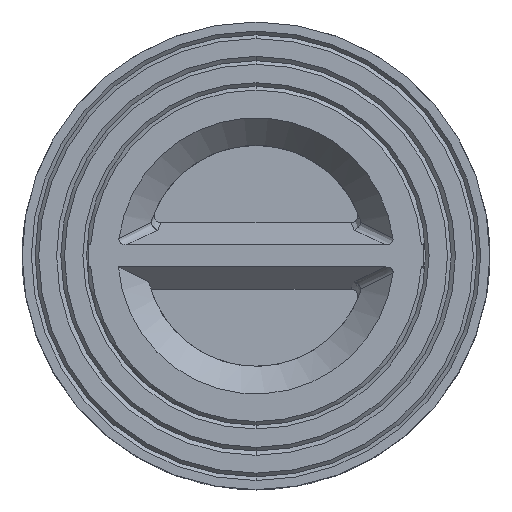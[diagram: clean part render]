
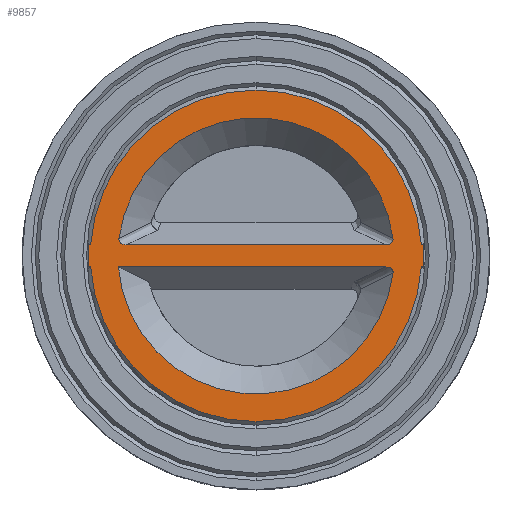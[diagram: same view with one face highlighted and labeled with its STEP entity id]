
A CAD part, top view. The second image highlights one B-rep face of the part: STEP entity #9857.
In plain terms, the highlighted planar face has unit normal (0, 0, 1).
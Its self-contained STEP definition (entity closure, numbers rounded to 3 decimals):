
#52=CARTESIAN_POINT('',(0.,0.,0.));
#53=DIRECTION('',(0.,0.,1.));
#54=DIRECTION('',(-0.998,-0.067,0.));
#55=AXIS2_PLACEMENT_3D('',#52,#53,#54);
#57=DIRECTION('',(0.,1.,0.));
#58=VECTOR('',#57,6.);
#59=CARTESIAN_POINT('',(-45.5,-3.,0.));
#60=LINE('',#59,#58);
#61=DIRECTION('',(1.,0.,0.));
#62=VECTOR('',#61,0.6);
#63=CARTESIAN_POINT('',(-45.5,3.,0.));
#64=LINE('',#63,#62);
#65=CARTESIAN_POINT('',(0.,0.,0.));
#66=DIRECTION('',(0.,0.,1.));
#67=DIRECTION('',(0.,1.,0.));
#68=AXIS2_PLACEMENT_3D('',#65,#66,#67);
#70=CARTESIAN_POINT('',(0.,0.,0.));
#71=DIRECTION('',(0.,0.,1.));
#72=DIRECTION('',(0.998,0.067,0.));
#73=AXIS2_PLACEMENT_3D('',#70,#71,#72);
#75=DIRECTION('',(1.,0.,0.));
#76=VECTOR('',#75,0.6);
#77=CARTESIAN_POINT('',(44.9,3.,0.));
#78=LINE('',#77,#76);
#79=DIRECTION('',(0.,-1.,0.));
#80=VECTOR('',#79,6.);
#81=CARTESIAN_POINT('',(45.5,3.,0.));
#82=LINE('',#81,#80);
#83=CARTESIAN_POINT('',(0.,0.,0.));
#84=DIRECTION('',(0.,0.,1.));
#85=DIRECTION('',(0.,-1.,0.));
#86=AXIS2_PLACEMENT_3D('',#83,#84,#85);
#88=CARTESIAN_POINT('',(0.,0.,0.));
#89=DIRECTION('',(0.,0.,-1.));
#90=DIRECTION('',(0.992,-0.126,0.));
#91=AXIS2_PLACEMENT_3D('',#88,#89,#90);
#93=DIRECTION('',(1.,0.,0.));
#94=VECTOR('',#93,70.547);
#95=CARTESIAN_POINT('',(-35.273,3.,0.));
#96=LINE('',#95,#94);
#97=CARTESIAN_POINT('',(0.,0.,0.));
#98=DIRECTION('',(0.,0.,-1.));
#99=DIRECTION('',(-0.992,0.126,0.));
#100=AXIS2_PLACEMENT_3D('',#97,#98,#99);
#7457=DIRECTION('',(1.,0.,0.));
#7458=VECTOR('',#7457,0.6);
#7459=CARTESIAN_POINT('',(44.9,-3.,0.));
#7460=LINE('',#7459,#7458);
#7461=DIRECTION('',(1.,0.,0.));
#7462=VECTOR('',#7461,0.6);
#7463=CARTESIAN_POINT('',(-45.5,-3.,0.));
#7464=LINE('',#7463,#7462);
#7472=CARTESIAN_POINT('',(35.273,-3.,0.));
#7481=DIRECTION('',(1.,0.,0.));
#7482=VECTOR('',#7481,72.653);
#7483=CARTESIAN_POINT('',(-37.38,-3.,0.));
#7484=LINE('',#7483,#7482);
#7519=CARTESIAN_POINT('',(35.273,3.,0.));
#7537=CARTESIAN_POINT('',(-35.273,3.,0.));
#7671=CARTESIAN_POINT('',(-35.273,3.,0.));
#7672=CARTESIAN_POINT('',(-35.471,3.,
0.));
#7673=CARTESIAN_POINT('',(-35.843,3.035,
0.));
#7674=CARTESIAN_POINT('',(-36.339,3.191,
0.));
#7675=CARTESIAN_POINT('',(-36.74,3.443,
0.));
#7676=CARTESIAN_POINT('',(-37.036,3.779,
0.));
#7677=CARTESIAN_POINT('',(-37.214,4.237,
0.));
#7678=CARTESIAN_POINT('',(-37.222,4.563,
0.));
#7679=CARTESIAN_POINT('',(-37.2,4.736,
0.));
#7702=CARTESIAN_POINT('',(37.2,4.736,
0.));
#7703=CARTESIAN_POINT('',(37.222,4.563,
0.));
#7704=CARTESIAN_POINT('',(37.214,4.237,0.));
#7705=CARTESIAN_POINT('',(37.036,3.779,
0.));
#7706=CARTESIAN_POINT('',(36.74,3.443,0.));
#7707=CARTESIAN_POINT('',(36.339,3.191,
0.));
#7708=CARTESIAN_POINT('',(35.843,3.035,
0.));
#7709=CARTESIAN_POINT('',(35.471,3.,0.));
#7710=CARTESIAN_POINT('',(35.273,3.,0.));
#7720=CARTESIAN_POINT('',(35.273,-3.,0.));
#7721=CARTESIAN_POINT('',(35.471,-3.,
0.));
#7722=CARTESIAN_POINT('',(35.843,-3.035,
0.));
#7723=CARTESIAN_POINT('',(36.339,-3.191,
0.));
#7724=CARTESIAN_POINT('',(36.74,-3.443,
0.));
#7725=CARTESIAN_POINT('',(37.036,-3.779,
0.));
#7726=CARTESIAN_POINT('',(37.214,-4.237,
0.));
#7727=CARTESIAN_POINT('',(37.222,-4.563,
0.));
#7728=CARTESIAN_POINT('',(37.2,-4.736,
0.));
#7742=CARTESIAN_POINT('',(-37.38,-3.,0.));
#8281=CARTESIAN_POINT('',(0.,-45.,0.));
#8282=VERTEX_POINT('',#8281);
#8293=CARTESIAN_POINT('',(0.,45.,0.));
#8294=VERTEX_POINT('',#8293);
#8305=CARTESIAN_POINT('',(45.5,3.,0.));
#8306=CARTESIAN_POINT('',(45.5,-3.,0.));
#8307=VERTEX_POINT('',#8305);
#8308=VERTEX_POINT('',#8306);
#8309=CARTESIAN_POINT('',(-45.5,-3.,0.));
#8310=CARTESIAN_POINT('',(-45.5,3.,0.));
#8311=VERTEX_POINT('',#8309);
#8312=VERTEX_POINT('',#8310);
#8366=CARTESIAN_POINT('',(44.9,-3.,0.));
#8367=VERTEX_POINT('',#8366);
#8368=CARTESIAN_POINT('',(44.9,3.,0.));
#8369=VERTEX_POINT('',#8368);
#8370=CARTESIAN_POINT('',(-44.9,3.,0.));
#8371=VERTEX_POINT('',#8370);
#8372=CARTESIAN_POINT('',(-44.9,-3.,0.));
#8373=VERTEX_POINT('',#8372);
#9363=VERTEX_POINT('',#7742);
#9735=VERTEX_POINT('',#7472);
#9743=VERTEX_POINT('',#7519);
#9748=VERTEX_POINT('',#7537);
#9749=CARTESIAN_POINT('',(37.2,-4.736,0.));
#9750=VERTEX_POINT('',#9749);
#9751=CARTESIAN_POINT('',(-37.2,4.736,0.));
#9752=CARTESIAN_POINT('',(37.2,4.736,0.));
#9753=VERTEX_POINT('',#9751);
#9754=VERTEX_POINT('',#9752);
#9812=CARTESIAN_POINT('',(0.,0.,0.));
#9813=DIRECTION('',(0.,0.,1.));
#9814=DIRECTION('',(-1.,0.,0.));
#9815=AXIS2_PLACEMENT_3D('',#9812,#9813,#9814);
#9816=PLANE('',#9815);
#9818=ORIENTED_EDGE('',*,*,#9817,.F.);
#9820=ORIENTED_EDGE('',*,*,#9819,.F.);
#9822=ORIENTED_EDGE('',*,*,#9821,.T.);
#9824=ORIENTED_EDGE('',*,*,#9823,.T.);
#9826=ORIENTED_EDGE('',*,*,#9825,.F.);
#9828=ORIENTED_EDGE('',*,*,#9827,.F.);
#9830=ORIENTED_EDGE('',*,*,#9829,.T.);
#9832=ORIENTED_EDGE('',*,*,#9831,.T.);
#9834=ORIENTED_EDGE('',*,*,#9833,.F.);
#9836=ORIENTED_EDGE('',*,*,#9835,.F.);
#9837=EDGE_LOOP('',(#9818,#9820,#9822,#9824,#9826,#9828,#9830,#9832,#9834,
#9836));
#9838=FACE_OUTER_BOUND('',#9837,.F.);
#9840=ORIENTED_EDGE('',*,*,#9839,.F.);
#9842=ORIENTED_EDGE('',*,*,#9841,.F.);
#9844=ORIENTED_EDGE('',*,*,#9843,.F.);
#9845=EDGE_LOOP('',(#9840,#9842,#9844));
#9846=FACE_BOUND('',#9845,.F.);
#9848=ORIENTED_EDGE('',*,*,#9847,.T.);
#9850=ORIENTED_EDGE('',*,*,#9849,.F.);
#9852=ORIENTED_EDGE('',*,*,#9851,.F.);
#9854=ORIENTED_EDGE('',*,*,#9853,.F.);
#9855=EDGE_LOOP('',(#9848,#9850,#9852,#9854));
#9856=FACE_BOUND('',#9855,.F.);
#56=CIRCLE('',#55,45.);
#69=CIRCLE('',#68,45.);
#74=CIRCLE('',#73,45.);
#87=CIRCLE('',#86,45.);
#92=CIRCLE('',#91,37.5);
#101=CIRCLE('',#100,37.5);
#7680=B_SPLINE_CURVE_WITH_KNOTS('',3,(#7671,#7672,#7673,#7674,#7675,#7676,#7677,
#7678,#7679),.UNSPECIFIED.,.F.,.F.,(4,1,1,1,1,1,4),(0.,0.167,
0.333,0.5,0.667,0.833,1.),
.UNSPECIFIED.);
#7711=B_SPLINE_CURVE_WITH_KNOTS('',3,(#7702,#7703,#7704,#7705,#7706,#7707,#7708,
#7709,#7710),.UNSPECIFIED.,.F.,.F.,(4,1,1,1,1,1,4),(0.,0.167,
0.333,0.5,0.667,0.833,1.),
.UNSPECIFIED.);
#7729=B_SPLINE_CURVE_WITH_KNOTS('',3,(#7720,#7721,#7722,#7723,#7724,#7725,#7726,
#7727,#7728),.UNSPECIFIED.,.F.,.F.,(4,1,1,1,1,1,4),(0.,0.167,
0.333,0.5,0.667,0.833,1.),
.UNSPECIFIED.);
#9817=EDGE_CURVE('',#8373,#8282,#56,.T.);
#9819=EDGE_CURVE('',#8311,#8373,#7464,.T.);
#9821=EDGE_CURVE('',#8311,#8312,#60,.T.);
#9823=EDGE_CURVE('',#8312,#8371,#64,.T.);
#9825=EDGE_CURVE('',#8294,#8371,#69,.T.);
#9827=EDGE_CURVE('',#8369,#8294,#74,.T.);
#9829=EDGE_CURVE('',#8369,#8307,#78,.T.);
#9831=EDGE_CURVE('',#8307,#8308,#82,.T.);
#9833=EDGE_CURVE('',#8367,#8308,#7460,.T.);
#9835=EDGE_CURVE('',#8282,#8367,#87,.T.);
#9839=EDGE_CURVE('',#9750,#9363,#92,.T.);
#9841=EDGE_CURVE('',#9735,#9750,#7729,.T.);
#9843=EDGE_CURVE('',#9363,#9735,#7484,.T.);
#9847=EDGE_CURVE('',#9748,#9743,#96,.T.);
#9849=EDGE_CURVE('',#9754,#9743,#7711,.T.);
#9851=EDGE_CURVE('',#9753,#9754,#101,.T.);
#9853=EDGE_CURVE('',#9748,#9753,#7680,.T.);
#9857=ADVANCED_FACE('',(#9838,#9846,#9856),#9816,.T.);
